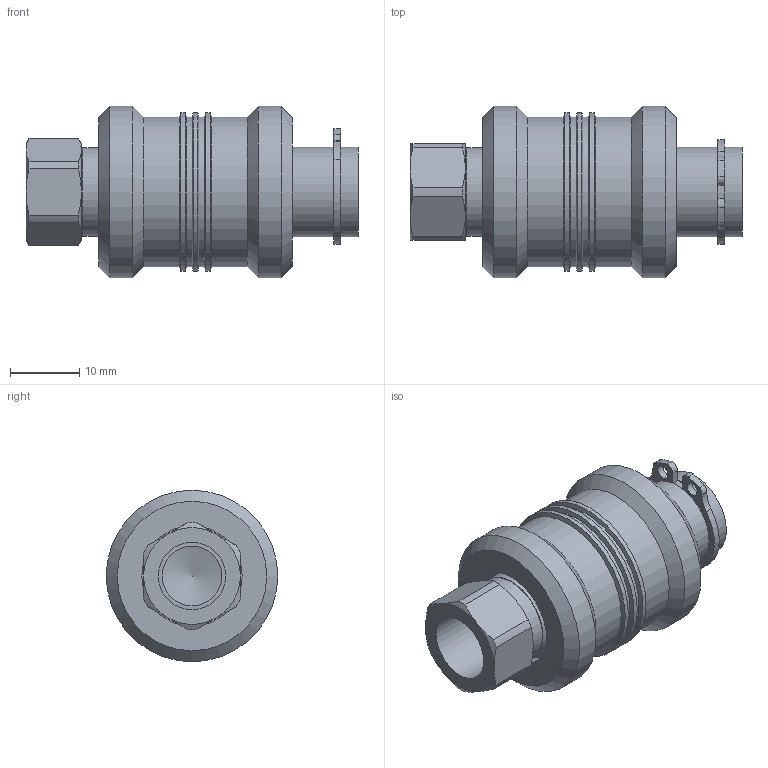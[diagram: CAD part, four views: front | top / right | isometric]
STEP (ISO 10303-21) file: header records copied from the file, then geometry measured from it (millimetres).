
FILE_DESCRIPTION(('Bauteilbeschreibung','HiCAD-Model','HiCAD-STEP-TRANSLATION','Bauteilbeschreibung'),'2;1');
FILE_NAME('B:/ABGLEICH/ZEICHNUNGEN/STEP FÜR INTERNET/STEP/HANDSCHIEBEVENTIL/60602_HANDSCHIEBEVENTIL_1-8.STP','2012-08-27T14:13:39+00:00',('Konstrukteur'),('Konstrukteur Firma GmbH'),' HiCAD neXt 2008, Step 3.1.1401.2J ','HiCAD neXt 2008','confidential');
FILE_SCHEMA(('AUTOMOTIVE_DESIGN { 1 2 10303 214 0 1 1 1 }'));
Length unit declared in the file: millimetre
Products named in the file (6): A0602_HANDSCHIEBEVENTIL_1_8; K_RPER; SCHIEBER; O_RING; O0RING; SICHERUNGSRING
Assembly tree (5 placements, depth 2):
  A0602_HANDSCHIEBEVENTIL_1_8
    K_RPER
    SCHIEBER
    O_RING
    O0RING
    SICHERUNGSRING
Bounding box: 48 x 24.8 x 24.8 mm (x, y, z)
Volume: 10414.8 mm3; surface area: 8587.7 mm2
Topology: 5 solids, 5 shells, 105 faces, 223 edges, 137 vertices
Faces by surface type: cylinder 43, plane 29, cone 24, torus 9
Full cylindrical faces by diameter (mm): 2 x2, 8.6 x2, 9.728 x2, 12.8 x2, 13 x6, 14.5 x1, 15 x2, 15.5 x1, 21.6 x4, 22.9 x3, 24.8 x2
Entity records: 3524 total; most frequent: DIRECTION 498, CARTESIAN_POINT 469, ORIENTED_EDGE 350, AXIS2_PLACEMENT_3D 232, EDGE_CURVE 175, COLOUR_RGB 164, EDGE_LOOP 164, PRESENTATION_STYLE_ASSIGNMENT 164
